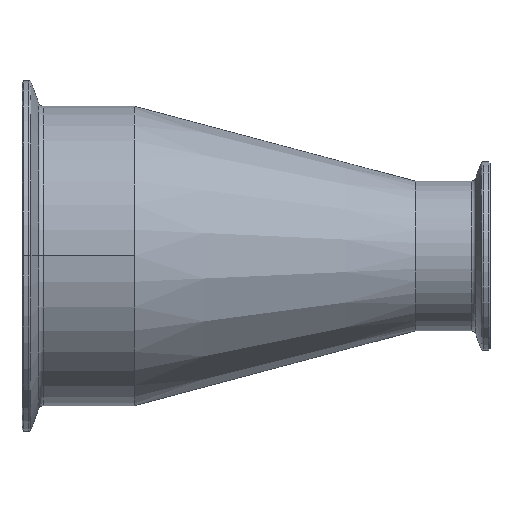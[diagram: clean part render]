
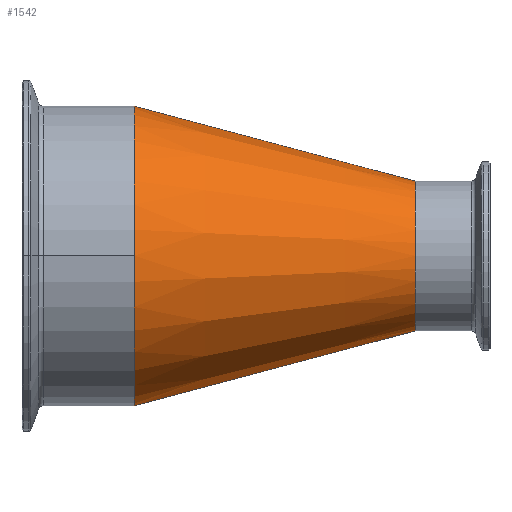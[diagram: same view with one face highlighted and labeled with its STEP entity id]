
A CAD part, top view. The second image highlights one B-rep face of the part: STEP entity #1542.
In plain terms, the highlighted conical face has half-angle 14.931 degrees and reference radius 50.8 mm.
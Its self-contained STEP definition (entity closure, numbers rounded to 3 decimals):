
#10 = EDGE_CURVE ( 'NONE', #1415, #393, #174, .T. ) ;
#11 = AXIS2_PLACEMENT_3D ( 'NONE', #486, #472, #481 ) ;
#83 = CARTESIAN_POINT ( 'NONE',  ( -41.275, 50.8, 0. ) ) ;
#117 = DIRECTION ( 'NONE',  ( -1., 0., 0. ) ) ;
#174 = CIRCLE ( 'NONE', #940, 50.8 ) ;
#247 = CARTESIAN_POINT ( 'NONE',  ( 53.975, 0., 0. ) ) ;
#302 = VERTEX_POINT ( 'NONE', #1453 ) ;
#318 = ORIENTED_EDGE ( 'NONE', *, *, #615, .T. ) ;
#355 = EDGE_CURVE ( 'NONE', #933, #1120, #1499, .T. ) ;
#393 = VERTEX_POINT ( 'NONE', #861 ) ;
#405 = CARTESIAN_POINT ( 'NONE',  ( -41.275, 50.8, 0. ) ) ;
#408 = VECTOR ( 'NONE', #1477, 1000. ) ;
#472 = DIRECTION ( 'NONE',  ( 1., 0., 0. ) ) ;
#481 = DIRECTION ( 'NONE',  ( 0., 1., 0. ) ) ;
#486 = CARTESIAN_POINT ( 'NONE',  ( -41.275, 0., 0. ) ) ;
#533 = ORIENTED_EDGE ( 'NONE', *, *, #575, .F. ) ;
#575 = EDGE_CURVE ( 'NONE', #302, #933, #788, .T. ) ;
#615 = EDGE_CURVE ( 'NONE', #393, #1120, #1065, .T. ) ;
#625 = DIRECTION ( 'NONE',  ( 0., 1., 0. ) ) ;
#732 = LINE ( 'NONE', #405, #408 ) ;
#786 = EDGE_LOOP ( 'NONE', ( #533, #843, #1290, #318, #1101 ) ) ;
#788 = CIRCLE ( 'NONE', #1330, 25.4 ) ;
#843 = ORIENTED_EDGE ( 'NONE', *, *, #969, .T. ) ;
#861 = CARTESIAN_POINT ( 'NONE',  ( -41.275, 0., 50.8 ) ) ;
#912 = DIRECTION ( 'NONE',  ( -0.966, -0.258, 0. ) ) ;
#933 = VERTEX_POINT ( 'NONE', #1000 ) ;
#940 = AXIS2_PLACEMENT_3D ( 'NONE', #1149, #1135, #1127 ) ;
#969 = EDGE_CURVE ( 'NONE', #302, #1415, #732, .T. ) ;
#1000 = CARTESIAN_POINT ( 'NONE',  ( 53.975, -25.4, 0. ) ) ;
#1023 = AXIS2_PLACEMENT_3D ( 'NONE', #1441, #117, #1193 ) ;
#1043 = CARTESIAN_POINT ( 'NONE',  ( -41.275, -50.8, 0. ) ) ;
#1065 = CIRCLE ( 'NONE', #11, 50.8 ) ;
#1074 = DIRECTION ( 'NONE',  ( 1., 0., 0. ) ) ;
#1101 = ORIENTED_EDGE ( 'NONE', *, *, #355, .F. ) ;
#1120 = VERTEX_POINT ( 'NONE', #1547 ) ;
#1127 = DIRECTION ( 'NONE',  ( 0., 1., 0. ) ) ;
#1135 = DIRECTION ( 'NONE',  ( 1., 0., 0. ) ) ;
#1149 = CARTESIAN_POINT ( 'NONE',  ( -41.275, 0., 0. ) ) ;
#1179 = VECTOR ( 'NONE', #912, 1000. ) ;
#1193 = DIRECTION ( 'NONE',  ( 0., -1., 0. ) ) ;
#1290 = ORIENTED_EDGE ( 'NONE', *, *, #10, .T. ) ;
#1319 = FACE_OUTER_BOUND ( 'NONE', #786, .T. ) ;
#1330 = AXIS2_PLACEMENT_3D ( 'NONE', #247, #1074, #625 ) ;
#1415 = VERTEX_POINT ( 'NONE', #83 ) ;
#1441 = CARTESIAN_POINT ( 'NONE',  ( -41.275, 0., 0. ) ) ;
#1453 = CARTESIAN_POINT ( 'NONE',  ( 53.975, 25.4, 0. ) ) ;
#1477 = DIRECTION ( 'NONE',  ( -0.966, 0.258, 0. ) ) ;
#1499 = LINE ( 'NONE', #1043, #1179 ) ;
#1526 = CONICAL_SURFACE ( 'NONE', #1023, 50.8, 0.261 ) ;
#1542 = ADVANCED_FACE ( 'NONE', ( #1319 ), #1526, .T. ) ;
#1547 = CARTESIAN_POINT ( 'NONE',  ( -41.275, -50.8, 0. ) ) ;
